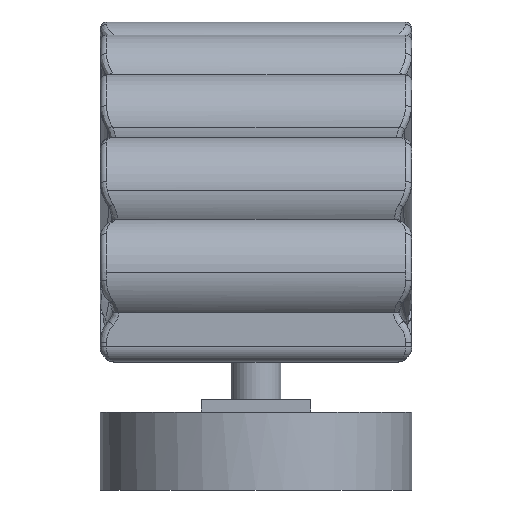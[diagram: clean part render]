
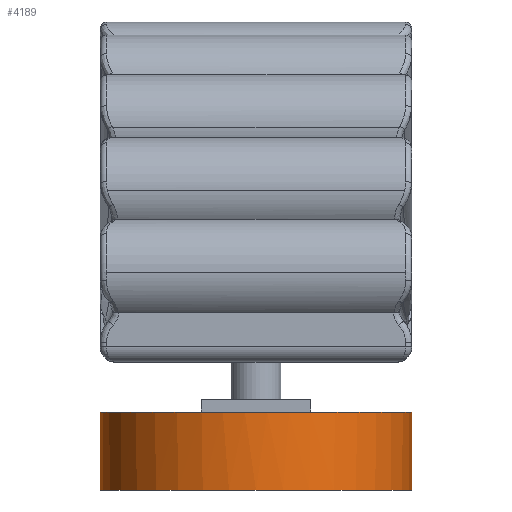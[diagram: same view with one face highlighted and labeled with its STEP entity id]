
A CAD part, front view. The second image highlights one B-rep face of the part: STEP entity #4189.
In plain terms, the highlighted cylindrical face has radius 50 mm (diameter 100 mm), a partial arc.
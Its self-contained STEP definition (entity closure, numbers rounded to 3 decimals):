
#436 = VERTEX_POINT ( 'NONE', #5637 ) ;
#482 = DIRECTION ( 'NONE',  ( 1., 0., 0. ) ) ;
#984 = VERTEX_POINT ( 'NONE', #14229 ) ;
#1514 = EDGE_CURVE ( 'NONE', #17352, #984, #13974, .T. ) ;
#1522 = CARTESIAN_POINT ( 'NONE',  ( -52.359, -1.917, 75. ) ) ;
#1971 = LINE ( 'NONE', #17332, #13956 ) ;
#2113 = ORIENTED_EDGE ( 'NONE', *, *, #12784, .F. ) ;
#2131 = AXIS2_PLACEMENT_3D ( 'NONE', #9541, #10950, #2901 ) ;
#2779 = VERTEX_POINT ( 'NONE', #1522 ) ;
#2901 = DIRECTION ( 'NONE',  ( 1., 0., 0. ) ) ;
#3063 = DIRECTION ( 'NONE',  ( 0., 0., -1. ) ) ;
#3073 = CARTESIAN_POINT ( 'NONE',  ( 15.141, -48.754, 100. ) ) ;
#3416 = EDGE_CURVE ( 'NONE', #2779, #16940, #15507, .T. ) ;
#3669 = EDGE_CURVE ( 'NONE', #436, #16940, #6866, .T. ) ;
#4189 = ADVANCED_FACE ( 'NONE', ( #14639 ), #11683, .T. ) ;
#4192 = ORIENTED_EDGE ( 'NONE', *, *, #3416, .T. ) ;
#4688 = CIRCLE ( 'NONE', #5944, 50. ) ;
#4974 = CARTESIAN_POINT ( 'NONE',  ( -2.359, -1.917, 100. ) ) ;
#5322 = DIRECTION ( 'NONE',  ( 0., 0., -1. ) ) ;
#5637 = CARTESIAN_POINT ( 'NONE',  ( 47.641, -1.917, 100. ) ) ;
#5758 = DIRECTION ( 'NONE',  ( -1., 0., 0. ) ) ;
#5944 = AXIS2_PLACEMENT_3D ( 'NONE', #12635, #14010, #482 ) ;
#6704 = CARTESIAN_POINT ( 'NONE',  ( 47.641, -1.917, 100. ) ) ;
#6866 = LINE ( 'NONE', #6704, #7496 ) ;
#7496 = VECTOR ( 'NONE', #5322, 1000. ) ;
#9541 = CARTESIAN_POINT ( 'NONE',  ( -2.359, -1.917, 75. ) ) ;
#9616 = EDGE_LOOP ( 'NONE', ( #13327, #9736, #2113, #15307, #13358, #4192 ) ) ;
#9736 = ORIENTED_EDGE ( 'NONE', *, *, #12971, .F. ) ;
#10635 = DIRECTION ( 'NONE',  ( 1., 0., 0. ) ) ;
#10665 = CARTESIAN_POINT ( 'NONE',  ( 47.641, -1.917, 75. ) ) ;
#10822 = AXIS2_PLACEMENT_3D ( 'NONE', #15006, #3063, #5758 ) ;
#10950 = DIRECTION ( 'NONE',  ( 0., 0., 1. ) ) ;
#11683 = CYLINDRICAL_SURFACE ( 'NONE', #10822, 50. ) ;
#11781 = AXIS2_PLACEMENT_3D ( 'NONE', #12699, #15371, #16659 ) ;
#12635 = CARTESIAN_POINT ( 'NONE',  ( -2.359, -1.917, 100. ) ) ;
#12699 = CARTESIAN_POINT ( 'NONE',  ( -2.359, -1.917, 100. ) ) ;
#12784 = EDGE_CURVE ( 'NONE', #984, #15291, #4688, .T. ) ;
#12971 = EDGE_CURVE ( 'NONE', #15291, #436, #17345, .T. ) ;
#13327 = ORIENTED_EDGE ( 'NONE', *, *, #3669, .F. ) ;
#13358 = ORIENTED_EDGE ( 'NONE', *, *, #13578, .T. ) ;
#13421 = CARTESIAN_POINT ( 'NONE',  ( -52.359, -1.917, 100. ) ) ;
#13578 = EDGE_CURVE ( 'NONE', #17352, #2779, #1971, .T. ) ;
#13956 = VECTOR ( 'NONE', #17213, 1000. ) ;
#13974 = CIRCLE ( 'NONE', #11781, 50. ) ;
#14010 = DIRECTION ( 'NONE',  ( 0., 0., 1. ) ) ;
#14229 = CARTESIAN_POINT ( 'NONE',  ( -19.859, -48.754, 100. ) ) ;
#14639 = FACE_OUTER_BOUND ( 'NONE', #9616, .T. ) ;
#15006 = CARTESIAN_POINT ( 'NONE',  ( -2.359, -1.917, 100. ) ) ;
#15291 = VERTEX_POINT ( 'NONE', #3073 ) ;
#15307 = ORIENTED_EDGE ( 'NONE', *, *, #1514, .F. ) ;
#15371 = DIRECTION ( 'NONE',  ( 0., 0., 1. ) ) ;
#15507 = CIRCLE ( 'NONE', #2131, 50. ) ;
#15834 = DIRECTION ( 'NONE',  ( 0., 0., 1. ) ) ;
#15880 = AXIS2_PLACEMENT_3D ( 'NONE', #4974, #15834, #10635 ) ;
#16659 = DIRECTION ( 'NONE',  ( 1., 0., 0. ) ) ;
#16940 = VERTEX_POINT ( 'NONE', #10665 ) ;
#17213 = DIRECTION ( 'NONE',  ( 0., 0., -1. ) ) ;
#17332 = CARTESIAN_POINT ( 'NONE',  ( -52.359, -1.917, 100. ) ) ;
#17345 = CIRCLE ( 'NONE', #15880, 50. ) ;
#17352 = VERTEX_POINT ( 'NONE', #13421 ) ;
